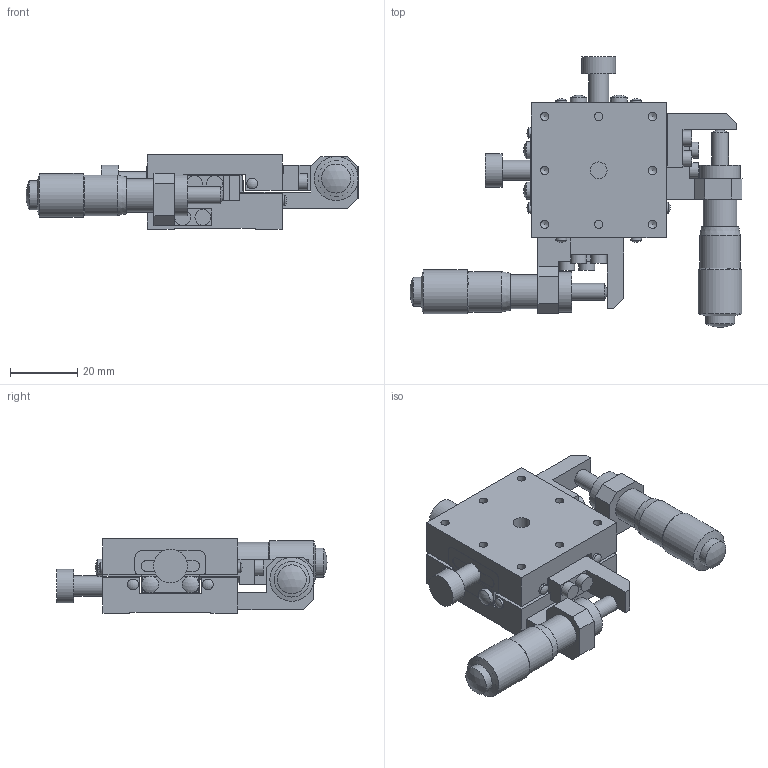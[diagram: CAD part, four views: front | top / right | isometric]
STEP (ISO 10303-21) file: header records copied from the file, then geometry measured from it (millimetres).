
FILE_DESCRIPTION( ( 'STEP AP214' ), '1' );
FILE_NAME( 'C:/Project/3D_B23-40CR-配布-070508.stp', '2007-05-08T10:43:00', ( ' ' ), ( ' ' ), 'XStep 1.0', ' ', ' ' );
FILE_SCHEMA( ( 'automotive_design' ) );
Length unit declared in the file: millimetre
Products named in the file (5): 1; 2; 3; 4; 5
Bounding box: 98.46 x 80.11 x 22 mm (x, y, z)
Volume: 46513.7 mm3; surface area: 27766.8 mm2
Topology: 5 solids, 5 shells, 266 faces, 654 edges, 433 vertices
Faces by surface type: plane 153, cylinder 85, sphere 16, cone 12
Full cylindrical faces by diameter (mm): 2.5 x14, 3 x2, 3.2 x8, 3.5 x4, 4.7 x8, 5 x9, 6 x2, 8.6 x2, 10 x4, 10.5 x2, 12 x4, 13 x2
Entity records: 9396 total; most frequent: DIRECTION 1258, CARTESIAN_POINT 1213, ORIENTED_EDGE 1084, EDGE_CURVE 542, AXIS2_PLACEMENT_3D 445, VERTEX_POINT 400, EDGE_LOOP 396, LINE 368
